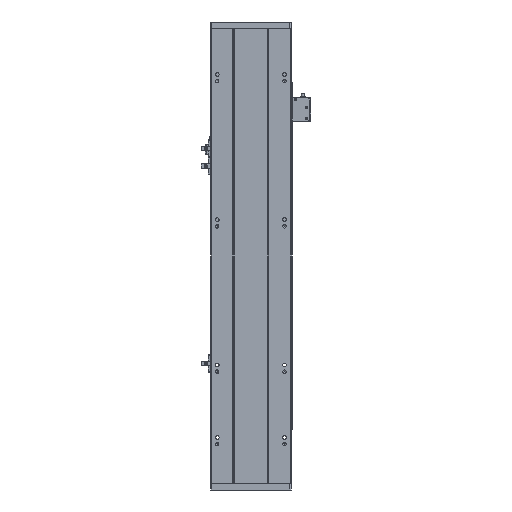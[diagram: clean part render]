
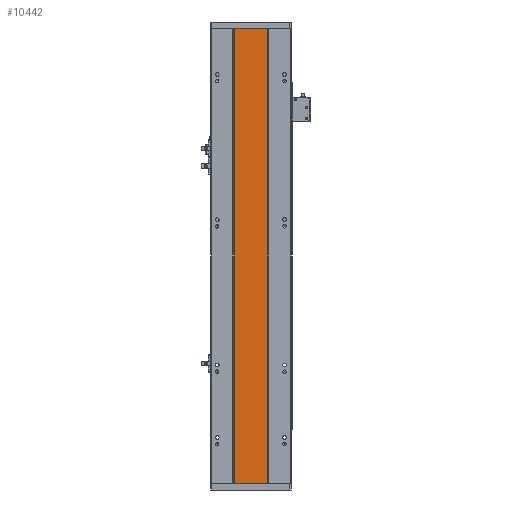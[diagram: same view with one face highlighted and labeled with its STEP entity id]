
A CAD part, front view. The second image highlights one B-rep face of the part: STEP entity #10442.
In plain terms, the highlighted planar face has unit normal (0, -1, 0).
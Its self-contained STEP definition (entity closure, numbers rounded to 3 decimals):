
#10 = CARTESIAN_POINT ( 'NONE',  ( 133.07, 115.96, 676. ) ) ;
#195 = DIRECTION ( 'NONE',  ( 0., 1., 0. ) ) ;
#726 = VERTEX_POINT ( 'NONE', #10 ) ;
#856 = CARTESIAN_POINT ( 'NONE',  ( 0., 115.96, 0. ) ) ;
#1374 = LINE ( 'NONE', #14825, #17245 ) ;
#1565 = DIRECTION ( 'NONE',  ( 1., 0., 0. ) ) ;
#3598 = CARTESIAN_POINT ( 'NONE',  ( 0., 115.96, 676. ) ) ;
#4130 = EDGE_CURVE ( 'NONE', #14395, #13342, #19190, .T. ) ;
#4199 = CARTESIAN_POINT ( 'NONE',  ( 183.063, 115.96, 0. ) ) ;
#4710 = FACE_OUTER_BOUND ( 'NONE', #24157, .T. ) ;
#5185 = LINE ( 'NONE', #3598, #17154 ) ;
#5952 = EDGE_CURVE ( 'NONE', #726, #18450, #5185, .T. ) ;
#6465 = ORIENTED_EDGE ( 'NONE', *, *, #21900, .F. ) ;
#6557 = DIRECTION ( 'NONE',  ( 1., 0., 0. ) ) ;
#7779 = VECTOR ( 'NONE', #6557, 1000. ) ;
#8242 = ORIENTED_EDGE ( 'NONE', *, *, #5952, .F. ) ;
#9855 = LINE ( 'NONE', #22784, #14990 ) ;
#10442 = ADVANCED_FACE ( 'NONE', ( #4710 ), #20985, .F. ) ;
#11656 = CARTESIAN_POINT ( 'NONE',  ( 0., 115.96, 676. ) ) ;
#12885 = DIRECTION ( 'NONE',  ( 0., 0., -1. ) ) ;
#13342 = VERTEX_POINT ( 'NONE', #4199 ) ;
#14395 = VERTEX_POINT ( 'NONE', #17172 ) ;
#14825 = CARTESIAN_POINT ( 'NONE',  ( 133.07, 115.96, 676. ) ) ;
#14990 = VECTOR ( 'NONE', #21059, 1000. ) ;
#15682 = ORIENTED_EDGE ( 'NONE', *, *, #4130, .T. ) ;
#16561 = EDGE_CURVE ( 'NONE', #726, #14395, #1374, .T. ) ;
#17154 = VECTOR ( 'NONE', #1565, 1000. ) ;
#17172 = CARTESIAN_POINT ( 'NONE',  ( 133.07, 115.96, 0. ) ) ;
#17245 = VECTOR ( 'NONE', #12885, 1000. ) ;
#18450 = VERTEX_POINT ( 'NONE', #22374 ) ;
#18610 = AXIS2_PLACEMENT_3D ( 'NONE', #11656, #195, #24882 ) ;
#19190 = LINE ( 'NONE', #856, #7779 ) ;
#20985 = PLANE ( 'NONE',  #18610 ) ;
#21059 = DIRECTION ( 'NONE',  ( 0., 0., -1. ) ) ;
#21900 = EDGE_CURVE ( 'NONE', #18450, #13342, #9855, .T. ) ;
#22374 = CARTESIAN_POINT ( 'NONE',  ( 183.063, 115.96, 676. ) ) ;
#22784 = CARTESIAN_POINT ( 'NONE',  ( 183.063, 115.96, 676. ) ) ;
#24157 = EDGE_LOOP ( 'NONE', ( #15682, #6465, #8242, #24776 ) ) ;
#24776 = ORIENTED_EDGE ( 'NONE', *, *, #16561, .T. ) ;
#24882 = DIRECTION ( 'NONE',  ( -1., 0., 0. ) ) ;
